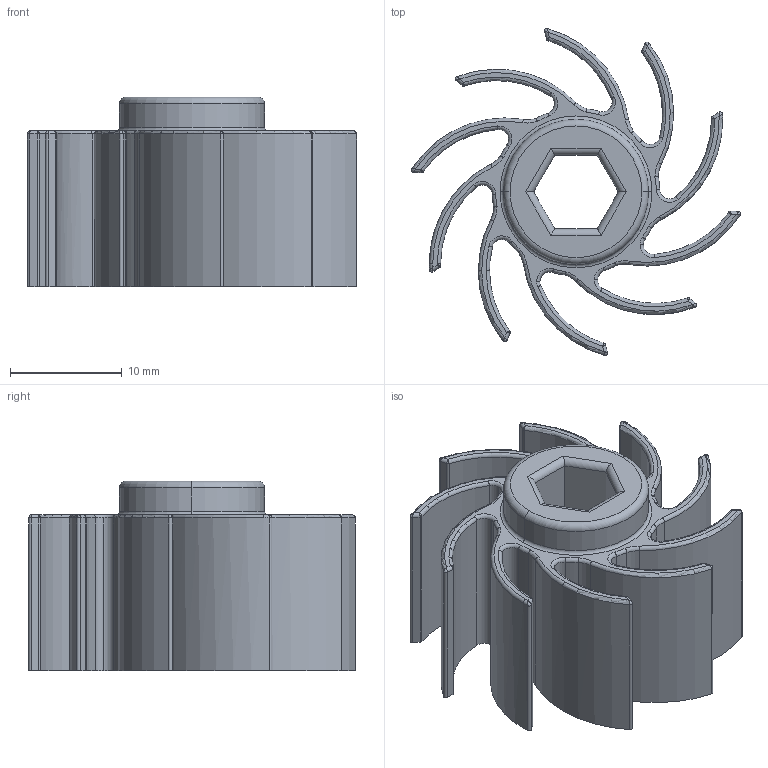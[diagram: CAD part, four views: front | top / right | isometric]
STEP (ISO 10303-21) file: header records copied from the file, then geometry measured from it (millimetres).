
FILE_DESCRIPTION (( 'STEP AP214' ), '1' );
FILE_NAME ('Torque-Rotor-1.STEP', '2020-05-03T10:34:33', ( 'Valera' ), ( '' ), 'SwSTEP 2.0', 'SolidWorks 2020', '' );
FILE_SCHEMA (( 'AUTOMOTIVE_DESIGN' ));
Length unit declared in the file: millimetre
Products named in the file (1): Torque-Rotor-1
Bounding box: 29.49 x 29.28 x 17 mm (x, y, z)
Volume: 3856.8 mm3; surface area: 4505.9 mm2
Topology: 1 solids, 1 shells, 205 faces, 513 edges, 292 vertices
Faces by surface type: cylinder 103, torus 62, plane 20, bspline 20
Entity records: 6601 total; most frequent: CARTESIAN_POINT 1779, DIRECTION 1095, ORIENTED_EDGE 986, EDGE_CURVE 493, AXIS2_PLACEMENT_3D 472, VERTEX_POINT 292, CIRCLE 286, EDGE_LOOP 209
